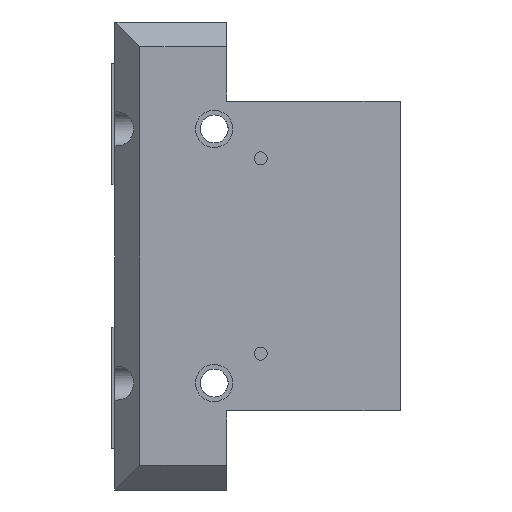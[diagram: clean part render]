
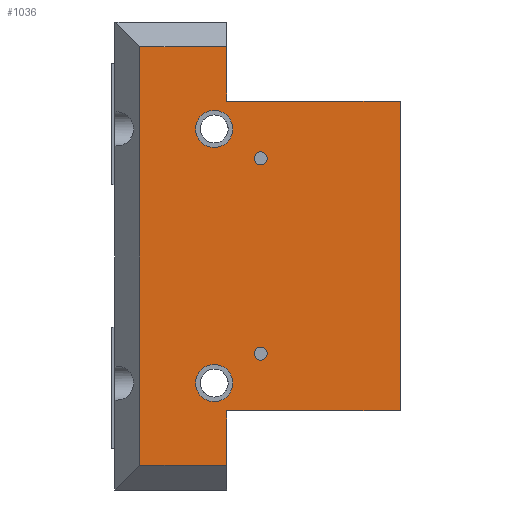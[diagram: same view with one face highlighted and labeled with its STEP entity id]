
A CAD part, left-side view. The second image highlights one B-rep face of the part: STEP entity #1036.
In plain terms, the highlighted planar face has unit normal (-1, 0, 0).
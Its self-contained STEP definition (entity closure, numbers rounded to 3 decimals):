
#186 = EDGE_CURVE ( 'NONE', #791, #188, #2404, .T. ) ;
#188 = VERTEX_POINT ( 'NONE', #2545 ) ;
#232 = EDGE_CURVE ( 'NONE', #255, #488, #2305, .T. ) ;
#244 = EDGE_CURVE ( 'NONE', #386, #388, #2308, .T. ) ;
#255 = VERTEX_POINT ( 'NONE', #2587 ) ;
#263 = VERTEX_POINT ( 'NONE', #2770 ) ;
#386 = VERTEX_POINT ( 'NONE', #5829 ) ;
#388 = VERTEX_POINT ( 'NONE', #5826 ) ;
#488 = VERTEX_POINT ( 'NONE', #2964 ) ;
#497 = VERTEX_POINT ( 'NONE', #2881 ) ;
#498 = EDGE_CURVE ( 'NONE', #263, #497, #2884, .T. ) ;
#668 = ORIENTED_EDGE ( 'NONE', *, *, #232, .F. ) ;
#670 = EDGE_LOOP ( 'NONE', ( #915, #1040 ) ) ;
#672 = ORIENTED_EDGE ( 'NONE', *, *, #1957, .F. ) ;
#673 = VERTEX_POINT ( 'NONE', #3391 ) ;
#674 = VERTEX_POINT ( 'NONE', #3390 ) ;
#675 = ORIENTED_EDGE ( 'NONE', *, *, #686, .T. ) ;
#676 = VERTEX_POINT ( 'NONE', #3397 ) ;
#677 = EDGE_CURVE ( 'NONE', #673, #674, #3386, .T. ) ;
#678 = EDGE_LOOP ( 'NONE', ( #680, #679, #675, #684, #681, #1028, #1027, #688 ) ) ;
#679 = ORIENTED_EDGE ( 'NONE', *, *, #687, .T. ) ;
#680 = ORIENTED_EDGE ( 'NONE', *, *, #677, .T. ) ;
#681 = ORIENTED_EDGE ( 'NONE', *, *, #186, .F. ) ;
#682 = VERTEX_POINT ( 'NONE', #3382 ) ;
#684 = ORIENTED_EDGE ( 'NONE', *, *, #1032, .T. ) ;
#686 = EDGE_CURVE ( 'NONE', #676, #682, #3364, .T. ) ;
#687 = EDGE_CURVE ( 'NONE', #674, #676, #3360, .T. ) ;
#688 = ORIENTED_EDGE ( 'NONE', *, *, #1048, .T. ) ;
#700 = EDGE_LOOP ( 'NONE', ( #1034, #1090 ) ) ;
#707 = EDGE_LOOP ( 'NONE', ( #977, #668 ) ) ;
#791 = VERTEX_POINT ( 'NONE', #3701 ) ;
#909 = EDGE_CURVE ( 'NONE', #1953, #1959, #3998, .T. ) ;
#915 = ORIENTED_EDGE ( 'NONE', *, *, #1041, .F. ) ;
#916 = EDGE_CURVE ( 'NONE', #488, #255, #3903, .T. ) ;
#976 = EDGE_CURVE ( 'NONE', #497, #263, #3840, .T. ) ;
#977 = ORIENTED_EDGE ( 'NONE', *, *, #916, .F. ) ;
#1027 = ORIENTED_EDGE ( 'NONE', *, *, #1046, .T. ) ;
#1028 = ORIENTED_EDGE ( 'NONE', *, *, #1033, .F. ) ;
#1029 = VERTEX_POINT ( 'NONE', #3874 ) ;
#1032 = EDGE_CURVE ( 'NONE', #682, #188, #3928, .T. ) ;
#1033 = EDGE_CURVE ( 'NONE', #1088, #791, #3922, .T. ) ;
#1034 = ORIENTED_EDGE ( 'NONE', *, *, #976, .F. ) ;
#1036 = ADVANCED_FACE ( 'NONE', ( #3915, #3917, #3894, #3932, #3921 ), #3916, .F. ) ;
#1040 = ORIENTED_EDGE ( 'NONE', *, *, #244, .F. ) ;
#1041 = EDGE_CURVE ( 'NONE', #388, #386, #4015, .T. ) ;
#1046 = EDGE_CURVE ( 'NONE', #1088, #1029, #3909, .T. ) ;
#1048 = EDGE_CURVE ( 'NONE', #1029, #673, #3926, .T. ) ;
#1088 = VERTEX_POINT ( 'NONE', #4116 ) ;
#1090 = ORIENTED_EDGE ( 'NONE', *, *, #498, .F. ) ;
#1157 = EDGE_LOOP ( 'NONE', ( #1158, #672 ) ) ;
#1158 = ORIENTED_EDGE ( 'NONE', *, *, #909, .F. ) ;
#1790 = DIRECTION ( 'NONE',  ( 0., -1., 0. ) ) ;
#1953 = VERTEX_POINT ( 'NONE', #5302 ) ;
#1957 = EDGE_CURVE ( 'NONE', #1959, #1953, #5234, .T. ) ;
#1959 = VERTEX_POINT ( 'NONE', #5387 ) ;
#2294 = CARTESIAN_POINT ( 'NONE',  ( -30., 60., 41. ) ) ;
#2297 = DIRECTION ( 'NONE',  ( -1., 0., 0. ) ) ;
#2299 = DIRECTION ( 'NONE',  ( 0., -1., 0. ) ) ;
#2300 = DIRECTION ( 'NONE',  ( -1., 0., 0. ) ) ;
#2301 = CARTESIAN_POINT ( 'NONE',  ( -30., 45., 31.5 ) ) ;
#2302 = AXIS2_PLACEMENT_3D ( 'NONE', #2301, #2300, #2299 ) ;
#2305 = CIRCLE ( 'NONE', #2302, 2.1 ) ;
#2308 = CIRCLE ( 'NONE', #2331, 6. ) ;
#2331 = AXIS2_PLACEMENT_3D ( 'NONE', #2294, #2297, #1790 ) ;
#2404 = LINE ( 'NONE', #2549, #2544 ) ;
#2543 = DIRECTION ( 'NONE',  ( 0., 0., -1. ) ) ;
#2544 = VECTOR ( 'NONE', #2543, 1000. ) ;
#2545 = CARTESIAN_POINT ( 'NONE',  ( -30., 0., -50. ) ) ;
#2549 = CARTESIAN_POINT ( 'NONE',  ( -30., 0., 75.5 ) ) ;
#2587 = CARTESIAN_POINT ( 'NONE',  ( -30., 47.1, 31.5 ) ) ;
#2770 = CARTESIAN_POINT ( 'NONE',  ( -30., 47.1, -31.5 ) ) ;
#2875 = DIRECTION ( 'NONE',  ( 0., -1., 0. ) ) ;
#2876 = DIRECTION ( 'NONE',  ( -1., 0., 0. ) ) ;
#2877 = AXIS2_PLACEMENT_3D ( 'NONE', #2882, #2876, #2875 ) ;
#2881 = CARTESIAN_POINT ( 'NONE',  ( -30., 42.9, -31.5 ) ) ;
#2882 = CARTESIAN_POINT ( 'NONE',  ( -30., 45., -31.5 ) ) ;
#2884 = CIRCLE ( 'NONE', #2877, 2.1 ) ;
#2964 = CARTESIAN_POINT ( 'NONE',  ( -30., 42.9, 31.5 ) ) ;
#3359 = CARTESIAN_POINT ( 'NONE',  ( -30., 92., -67.5 ) ) ;
#3360 = LINE ( 'NONE', #3359, #3473 ) ;
#3361 = DIRECTION ( 'NONE',  ( 0., 0., 1. ) ) ;
#3362 = VECTOR ( 'NONE', #3361, 1000. ) ;
#3363 = CARTESIAN_POINT ( 'NONE',  ( -30., 56., -50. ) ) ;
#3364 = LINE ( 'NONE', #3363, #3362 ) ;
#3382 = CARTESIAN_POINT ( 'NONE',  ( -30., 56., -50. ) ) ;
#3383 = DIRECTION ( 'NONE',  ( 0., 0., -1. ) ) ;
#3384 = VECTOR ( 'NONE', #3383, 1000. ) ;
#3385 = CARTESIAN_POINT ( 'NONE',  ( -30., 84., 75.5 ) ) ;
#3386 = LINE ( 'NONE', #3385, #3384 ) ;
#3390 = CARTESIAN_POINT ( 'NONE',  ( -30., 84., -67.5 ) ) ;
#3391 = CARTESIAN_POINT ( 'NONE',  ( -30., 84., 67.5 ) ) ;
#3397 = CARTESIAN_POINT ( 'NONE',  ( -30., 56., -67.5 ) ) ;
#3472 = DIRECTION ( 'NONE',  ( 0., -1., 0. ) ) ;
#3473 = VECTOR ( 'NONE', #3472, 1000. ) ;
#3701 = CARTESIAN_POINT ( 'NONE',  ( -30., 0., 50. ) ) ;
#3805 = DIRECTION ( 'NONE',  ( 0., -1., 0. ) ) ;
#3806 = DIRECTION ( 'NONE',  ( -1., 0., 0. ) ) ;
#3807 = CARTESIAN_POINT ( 'NONE',  ( -30., 45., -31.5 ) ) ;
#3840 = CIRCLE ( 'NONE', #3848, 2.1 ) ;
#3848 = AXIS2_PLACEMENT_3D ( 'NONE', #3807, #3806, #3805 ) ;
#3874 = CARTESIAN_POINT ( 'NONE',  ( -30., 56., 67.5 ) ) ;
#3894 = FACE_BOUND ( 'NONE', #670, .T. ) ;
#3903 = CIRCLE ( 'NONE', #3982, 2.1 ) ;
#3904 = CARTESIAN_POINT ( 'NONE',  ( -30., 60., -41. ) ) ;
#3907 = VECTOR ( 'NONE', #4006, 1000. ) ;
#3908 = CARTESIAN_POINT ( 'NONE',  ( -30., 56., 75.5 ) ) ;
#3909 = LINE ( 'NONE', #3908, #3907 ) ;
#3910 = DIRECTION ( 'NONE',  ( 0., 1., 0. ) ) ;
#3911 = DIRECTION ( 'NONE',  ( 1., 0., 0. ) ) ;
#3912 = CARTESIAN_POINT ( 'NONE',  ( -30., 92., 75.5 ) ) ;
#3913 = AXIS2_PLACEMENT_3D ( 'NONE', #3912, #3911, #3910 ) ;
#3915 = FACE_BOUND ( 'NONE', #707, .T. ) ;
#3916 = PLANE ( 'NONE',  #3913 ) ;
#3917 = FACE_BOUND ( 'NONE', #700, .T. ) ;
#3918 = DIRECTION ( 'NONE',  ( 0., -1., 0. ) ) ;
#3919 = VECTOR ( 'NONE', #3918, 1000. ) ;
#3920 = CARTESIAN_POINT ( 'NONE',  ( -30., 157.194, 50. ) ) ;
#3921 = FACE_OUTER_BOUND ( 'NONE', #678, .T. ) ;
#3922 = LINE ( 'NONE', #3920, #3919 ) ;
#3923 = DIRECTION ( 'NONE',  ( 0., -1., 0. ) ) ;
#3924 = VECTOR ( 'NONE', #3923, 1000. ) ;
#3925 = CARTESIAN_POINT ( 'NONE',  ( -30., 92., 67.5 ) ) ;
#3926 = LINE ( 'NONE', #3925, #4001 ) ;
#3927 = CARTESIAN_POINT ( 'NONE',  ( -30., 157.194, -50. ) ) ;
#3928 = LINE ( 'NONE', #3927, #3924 ) ;
#3932 = FACE_BOUND ( 'NONE', #1157, .T. ) ;
#3979 = DIRECTION ( 'NONE',  ( 0., -1., 0. ) ) ;
#3980 = DIRECTION ( 'NONE',  ( -1., 0., 0. ) ) ;
#3981 = CARTESIAN_POINT ( 'NONE',  ( -30., 45., 31.5 ) ) ;
#3982 = AXIS2_PLACEMENT_3D ( 'NONE', #3981, #3980, #3979 ) ;
#3989 = DIRECTION ( 'NONE',  ( 0., -1., 0. ) ) ;
#3990 = DIRECTION ( 'NONE',  ( -1., 0., 0. ) ) ;
#3991 = AXIS2_PLACEMENT_3D ( 'NONE', #3904, #3990, #3989 ) ;
#3998 = CIRCLE ( 'NONE', #3991, 6. ) ;
#4000 = DIRECTION ( 'NONE',  ( 0., 1., 0. ) ) ;
#4001 = VECTOR ( 'NONE', #4000, 1000. ) ;
#4006 = DIRECTION ( 'NONE',  ( 0., 0., 1. ) ) ;
#4012 = DIRECTION ( 'NONE',  ( 0., -1., 0. ) ) ;
#4013 = DIRECTION ( 'NONE',  ( -1., 0., 0. ) ) ;
#4014 = AXIS2_PLACEMENT_3D ( 'NONE', #4019, #4013, #4012 ) ;
#4015 = CIRCLE ( 'NONE', #4014, 6. ) ;
#4019 = CARTESIAN_POINT ( 'NONE',  ( -30., 60., 41. ) ) ;
#4116 = CARTESIAN_POINT ( 'NONE',  ( -30., 56., 50. ) ) ;
#5234 = CIRCLE ( 'NONE', #5281, 6. ) ;
#5279 = DIRECTION ( 'NONE',  ( 0., -1., 0. ) ) ;
#5280 = DIRECTION ( 'NONE',  ( -1., 0., 0. ) ) ;
#5281 = AXIS2_PLACEMENT_3D ( 'NONE', #5295, #5280, #5279 ) ;
#5295 = CARTESIAN_POINT ( 'NONE',  ( -30., 60., -41. ) ) ;
#5302 = CARTESIAN_POINT ( 'NONE',  ( -30., 54., -41. ) ) ;
#5387 = CARTESIAN_POINT ( 'NONE',  ( -30., 66., -41. ) ) ;
#5826 = CARTESIAN_POINT ( 'NONE',  ( -30., 54., 41. ) ) ;
#5829 = CARTESIAN_POINT ( 'NONE',  ( -30., 66., 41. ) ) ;
